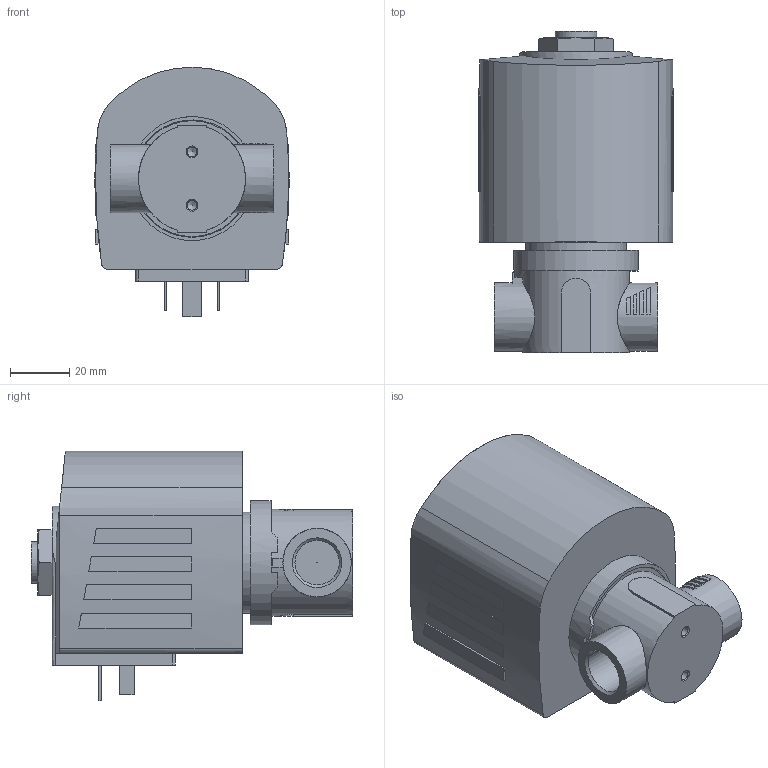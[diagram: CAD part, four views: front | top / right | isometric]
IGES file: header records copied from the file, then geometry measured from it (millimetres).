
Start section: Data from Parasolid IGES Translator 26.0.171, Copyright(c) 2006 Siemens PLM Software. All Rights Reserved.
Global section: file name: 6240-385817-2_2-way_solenoid_valve__pilot-controlled.igs; native system: By Siemens PLM Incorporated; preprocessor: XPlus GENERIC/IGES 26.0.171; author: Noname; organization: Noname; date: 20240510.113816; units: millimetre
Bounding box: 65.62 x 108.2 x 84 mm (x, y, z)
Surface area: 35919.2 mm2 (no closed solid volume)
Topology: 0 solids, 0 shells, 166 faces, 822 edges, 811 vertices
Faces by surface type: extrusion 117, revolution 49
